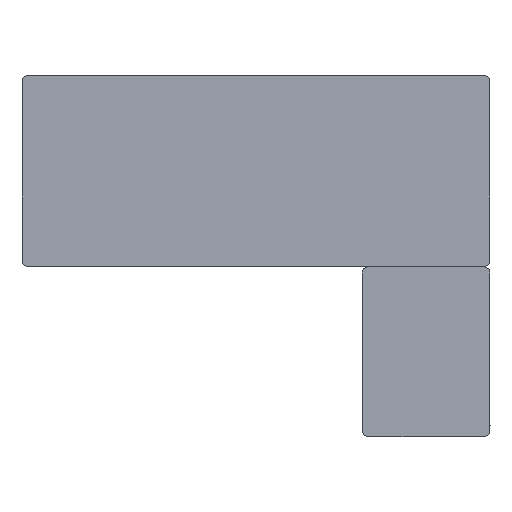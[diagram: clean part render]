
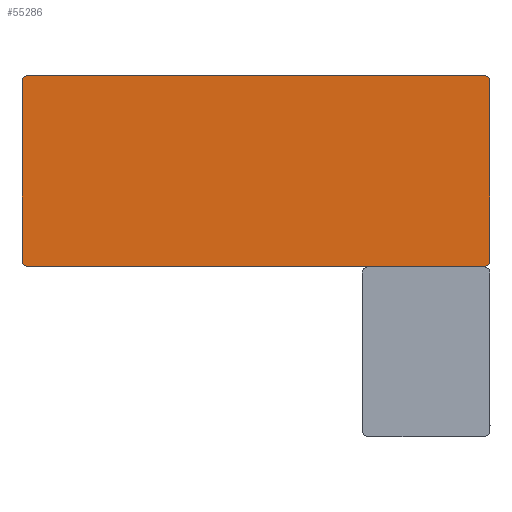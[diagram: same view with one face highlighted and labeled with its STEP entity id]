
A CAD part, top view. The second image highlights one B-rep face of the part: STEP entity #55286.
In plain terms, the highlighted planar face has unit normal (0, 0, 1).
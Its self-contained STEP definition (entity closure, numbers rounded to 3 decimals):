
#55211=CARTESIAN_POINT('',(-75.033,-0.033,750.));
#55212=DIRECTION('',(0.,0.,-1.0));
#55213=DIRECTION('',(1.0,0.,0.));
#55214=AXIS2_PLACEMENT_3D('',#55211,#55212,#55213);
#55215=PLANE('',#55214);
#55216=CARTESIAN_POINT('',(2124.967,-30.033,750.));
#55217=VERTEX_POINT('',#55216);
#55218=CARTESIAN_POINT('',(2094.967,-0.033,750.));
#55219=VERTEX_POINT('',#55218);
#55220=CARTESIAN_POINT('',(2094.967,-30.033,750.));
#55221=DIRECTION('',(0.,0.,1.0));
#55222=DIRECTION('',(1.0,0.,0.));
#55223=AXIS2_PLACEMENT_3D('',#55220,#55221,#55222);
#55224=CIRCLE('',#55223,30.);
#55225=EDGE_CURVE('',#55217,#55219,#55224,.T.);
#55226=ORIENTED_EDGE('',*,*,#55225,.T.);
#55227=CARTESIAN_POINT('',(-45.033,-0.033,750.));
#55228=VERTEX_POINT('',#55227);
#55229=CARTESIAN_POINT('',(-45.033,-0.033,750.));
#55230=DIRECTION('',(1.0,0.,0.));
#55231=VECTOR('',#55230,2140.);
#55232=LINE('',#55229,#55231);
#55233=EDGE_CURVE('',#55228,#55219,#55232,.T.);
#55234=ORIENTED_EDGE('',*,*,#55233,.F.);
#55235=CARTESIAN_POINT('',(-75.033,-30.033,750.));
#55236=VERTEX_POINT('',#55235);
#55237=CARTESIAN_POINT('',(-45.033,-30.033,750.));
#55238=DIRECTION('',(0.,0.,-1.0));
#55239=DIRECTION('',(-1.0,0.,0.));
#55240=AXIS2_PLACEMENT_3D('',#55237,#55238,#55239);
#55241=CIRCLE('',#55240,30.0);
#55242=EDGE_CURVE('',#55236,#55228,#55241,.T.);
#55243=ORIENTED_EDGE('',*,*,#55242,.F.);
#55244=CARTESIAN_POINT('',(-75.033,-870.033,750.));
#55245=VERTEX_POINT('',#55244);
#55246=CARTESIAN_POINT('',(-75.033,-30.033,750.));
#55247=DIRECTION('',(0.,-1.0,0.));
#55248=VECTOR('',#55247,840.0);
#55249=LINE('',#55246,#55248);
#55250=EDGE_CURVE('',#55236,#55245,#55249,.T.);
#55251=ORIENTED_EDGE('',*,*,#55250,.T.);
#55252=CARTESIAN_POINT('',(-45.033,-900.033,750.));
#55253=VERTEX_POINT('',#55252);
#55254=CARTESIAN_POINT('',(-45.033,-870.033,750.));
#55255=DIRECTION('',(0.,0.,-1.0));
#55256=DIRECTION('',(0.,-1.0,0.));
#55257=AXIS2_PLACEMENT_3D('',#55254,#55255,#55256);
#55258=CIRCLE('',#55257,30.0);
#55259=EDGE_CURVE('',#55253,#55245,#55258,.T.);
#55260=ORIENTED_EDGE('',*,*,#55259,.F.);
#55261=CARTESIAN_POINT('',(2094.967,-900.033,750.));
#55262=VERTEX_POINT('',#55261);
#55263=CARTESIAN_POINT('',(-45.033,-900.033,750.));
#55264=DIRECTION('',(1.0,0.,0.));
#55265=VECTOR('',#55264,2140.0);
#55266=LINE('',#55263,#55265);
#55267=EDGE_CURVE('',#55253,#55262,#55266,.T.);
#55268=ORIENTED_EDGE('',*,*,#55267,.T.);
#55269=CARTESIAN_POINT('',(2124.967,-870.033,750.));
#55270=VERTEX_POINT('',#55269);
#55271=CARTESIAN_POINT('',(2094.967,-870.033,750.));
#55272=DIRECTION('',(0.,0.,1.0));
#55273=DIRECTION('',(0.,-1.0,0.));
#55274=AXIS2_PLACEMENT_3D('',#55271,#55272,#55273);
#55275=CIRCLE('',#55274,30.0);
#55276=EDGE_CURVE('',#55262,#55270,#55275,.T.);
#55277=ORIENTED_EDGE('',*,*,#55276,.T.);
#55278=CARTESIAN_POINT('',(2124.967,-30.033,750.));
#55279=DIRECTION('',(0.,-1.0,0.));
#55280=VECTOR('',#55279,840.0);
#55281=LINE('',#55278,#55280);
#55282=EDGE_CURVE('',#55217,#55270,#55281,.T.);
#55283=ORIENTED_EDGE('',*,*,#55282,.F.);
#55284=EDGE_LOOP('',(#55226,#55234,#55243,#55251,#55260,#55268,#55277,#55283));
#55285=FACE_OUTER_BOUND('',#55284,.T.);
#55286=ADVANCED_FACE('',(#55285),#55215,.F.);
